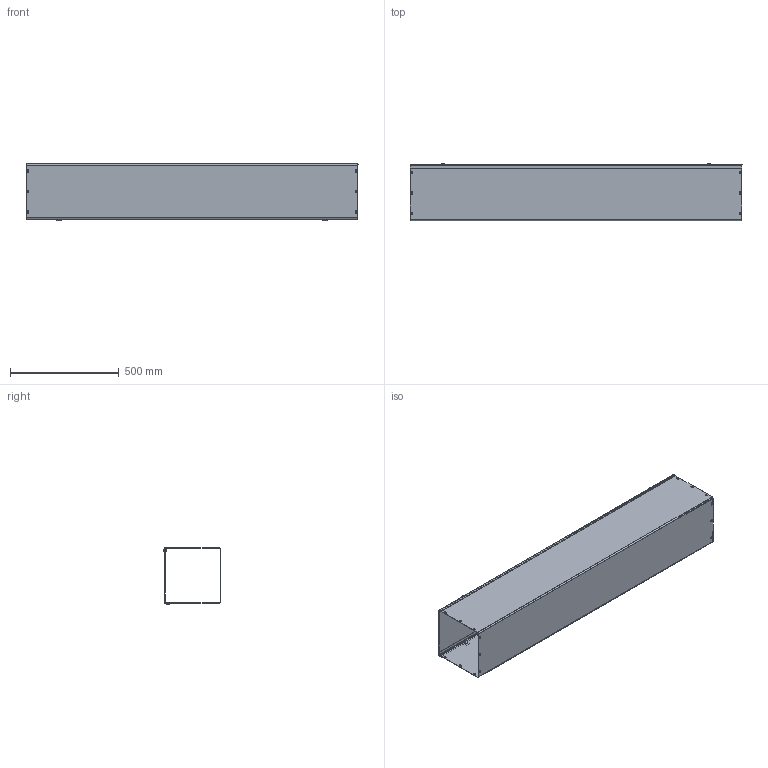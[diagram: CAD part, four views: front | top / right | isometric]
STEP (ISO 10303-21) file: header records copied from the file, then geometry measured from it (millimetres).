
FILE_DESCRIPTION((''),'1');
FILE_NAME('44','2001-04-18T',('jlue'),(''),'PRO/ENGINEER BY PARAMETRIC TECHNOLOGY CORPORATION, 9846','PRO/ENGINEER BY PARAMETRIC TECHNOLOGY CORPORATION, 9846','');
FILE_SCHEMA(('CONFIG_CONTROL_DESIGN'));
Length unit declared in the file: inch
Products named in the file (1): 44
Bounding box: 1524 x 262.36 x 264 mm (x, y, z)
Surface area: 3187070.5 mm2 (no closed solid volume)
Topology: 0 solids, 0 shells, 219 faces, 1189 edges, 1194 vertices
Faces by surface type: plane 127, cylinder 76, cone 8, bspline 8
Entity records: 6167 total; most frequent: DIRECTION 1199, COMPOSITE_CURVE_SEGMENT 1184, CARTESIAN_POINT 1032, TRIMMED_CURVE 597, VECTOR 417, LINE 417, AXIS2_PLACEMENT_3D 391, CURVE_BOUNDED_SURFACE 219
